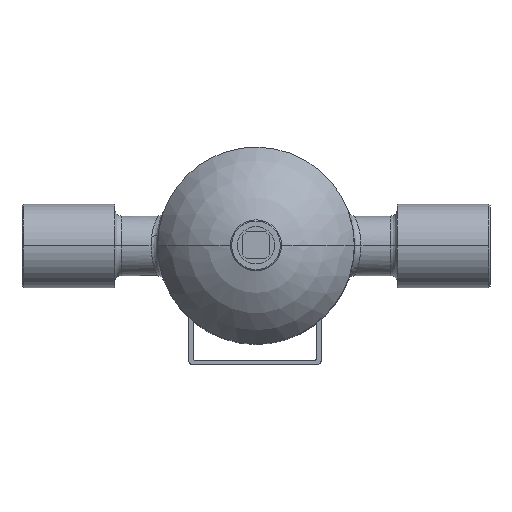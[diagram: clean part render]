
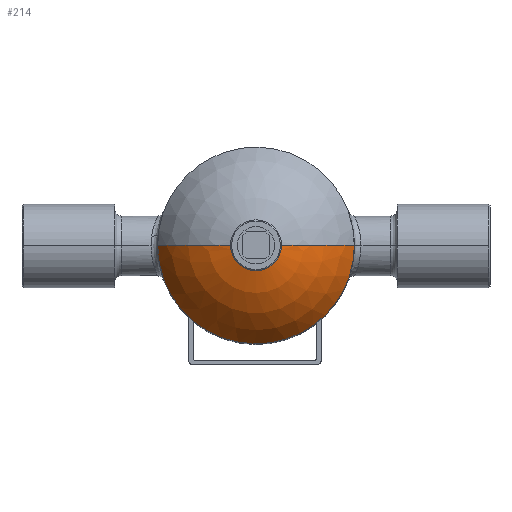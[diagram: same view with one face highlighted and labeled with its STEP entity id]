
A CAD part, top view. The second image highlights one B-rep face of the part: STEP entity #214.
In plain terms, the highlighted spherical face has radius 50.716 mm.
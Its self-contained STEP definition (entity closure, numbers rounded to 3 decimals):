
#214=ADVANCED_FACE('',(#1316),#1315,.T.);
#1315=SPHERICAL_SURFACE('',#2808,50.716);
#1316=FACE_OUTER_BOUND('',#2809,.T.);
#2805=CARTESIAN_POINT('',(0.5,0.,103.284));
#2806=DIRECTION('',(0.,0.,-1.));
#2807=DIRECTION('',(1.,0.,0.));
#2808=AXIS2_PLACEMENT_3D('',#2805,#2806,#2807);
#2809=EDGE_LOOP('',(#3973,#3974,#3975,#3976,#3977));
#3973=ORIENTED_EDGE('',*,*,#4497,.T.);
#3974=ORIENTED_EDGE('',*,*,#4494,.T.);
#3975=ORIENTED_EDGE('',*,*,#4460,.F.);
#3976=ORIENTED_EDGE('',*,*,#4469,.F.);
#3977=ORIENTED_EDGE('',*,*,#4496,.F.);
#4460=EDGE_CURVE('',#6324,#6325,#6326,.T.);
#4469=EDGE_CURVE('',#6379,#6324,#6386,.T.);
#4494=EDGE_CURVE('',#6552,#6325,#6553,.T.);
#4496=EDGE_CURVE('',#6559,#6379,#6566,.T.);
#4497=EDGE_CURVE('',#6559,#6552,#6572,.T.);
#6324=VERTEX_POINT('',#8415);
#6325=VERTEX_POINT('',#8416);
#6326=CIRCLE('',#8420,44.55);
#6379=VERTEX_POINT('',#8450);
#6386=CIRCLE('',#8458,44.55);
#6552=VERTEX_POINT('',#8745);
#6553=(BOUNDED_CURVE() B_SPLINE_CURVE(2,(#8746,#8747,#8748),.UNSPECIFIED.,.F.,.F.) B_SPLINE_CURVE_WITH_KNOTS((3,3),(0.,1.),.UNSPECIFIED.) CURVE() GEOMETRIC_REPRESENTATION_ITEM() RATIONAL_B_SPLINE_CURVE((1.,0.912,1.)) REPRESENTATION_ITEM('') );
#6559=VERTEX_POINT('',#8749);
#6566=(BOUNDED_CURVE() B_SPLINE_CURVE(2,(#8754,#8755,#8756),.UNSPECIFIED.,.F.,.F.) B_SPLINE_CURVE_WITH_KNOTS((3,3),(0.,1.),.UNSPECIFIED.) CURVE() GEOMETRIC_REPRESENTATION_ITEM() RATIONAL_B_SPLINE_CURVE((0.75,0.684,0.75)) REPRESENTATION_ITEM('') );
#6572=CIRCLE('',#8760,11.5);
#8415=CARTESIAN_POINT('',(0.116,-44.548,127.52));
#8416=CARTESIAN_POINT('',(-44.05,0.,127.52));
#8417=CARTESIAN_POINT('',(0.5,0.,127.52));
#8418=DIRECTION('',(0.,0.,-1.));
#8419=DIRECTION('',(-1.,0.,0.));
#8420=AXIS2_PLACEMENT_3D('',#8417,#8418,#8419);
#8450=CARTESIAN_POINT('',(45.05,0.,127.52));
#8455=CARTESIAN_POINT('',(0.5,0.,127.52));
#8456=DIRECTION('',(0.,0.,-1.));
#8457=DIRECTION('',(-1.,0.,0.));
#8458=AXIS2_PLACEMENT_3D('',#8455,#8456,#8457);
#8745=CARTESIAN_POINT('',(-11.,0.,152.679));
#8746=CARTESIAN_POINT('',(-11.,0.,152.679));
#8747=CARTESIAN_POINT('',(-33.171,0.,147.517));
#8748=CARTESIAN_POINT('',(-44.05,0.,127.52));
#8749=CARTESIAN_POINT('',(12.,0.,152.679));
#8754=CARTESIAN_POINT('',(12.,0.,152.679));
#8755=CARTESIAN_POINT('',(34.171,0.,147.517));
#8756=CARTESIAN_POINT('',(45.05,0.,127.52));
#8757=CARTESIAN_POINT('',(0.5,0.,152.679));
#8758=DIRECTION('',(0.,0.,-1.));
#8759=DIRECTION('',(-1.,0.,0.));
#8760=AXIS2_PLACEMENT_3D('',#8757,#8758,#8759);
